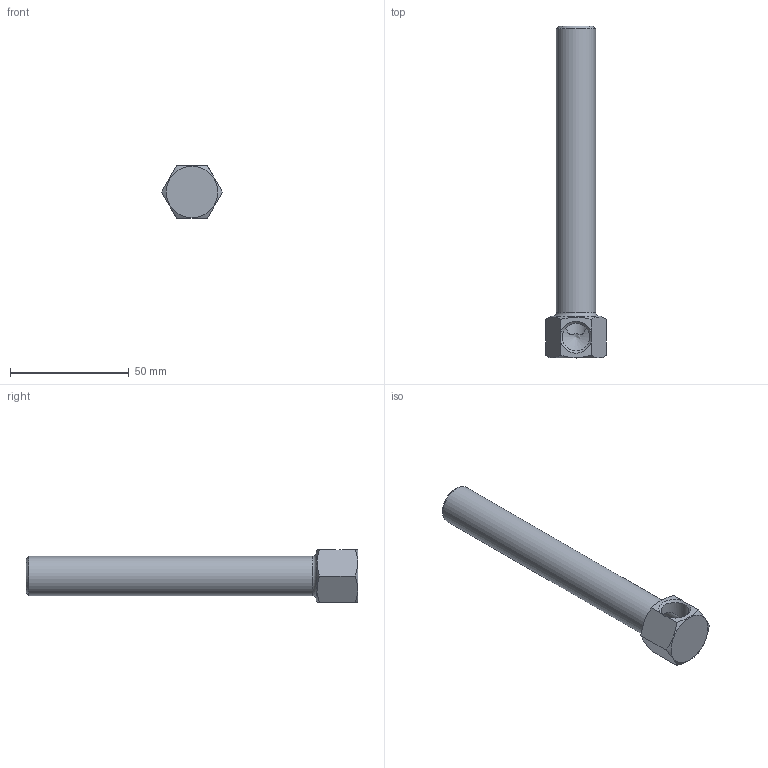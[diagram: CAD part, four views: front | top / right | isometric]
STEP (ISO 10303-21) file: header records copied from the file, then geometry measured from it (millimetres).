
FILE_DESCRIPTION(/* description */ (''),/* implementation_level */ '2;1');
FILE_NAME(/* name */ 'C:/Users/drich/Desktop/1438B-5-1_2 v1.step',/* time_stamp */ '2019-12-29T15:28:13-06:00',/* author */ (''),/* organization */ (''),/* preprocessor_version */ 'ST-DEVELOPER v18',/* originating_system */ 'Autodesk Translation Framework v8.12.0.6',/* authorisation */ '');
FILE_SCHEMA (('AUTOMOTIVE_DESIGN { 1 0 10303 214 3 1 1 }'));
Length unit declared in the file: inch
Products named in the file (1): 1438B-5-1_2
Bounding box: 25.66 x 139.7 x 22.23 mm (x, y, z)
Volume: 17943.7 mm3; surface area: 13472.3 mm2
Topology: 1 solids, 1 shells, 23 faces, 62 edges, 40 vertices
Faces by surface type: plane 10, cone 8, cylinder 4, torus 1
Full cylindrical faces by diameter (mm): 11.668 x1, 11.887 x1, 16.537 x1
Entity records: 821 total; most frequent: CARTESIAN_POINT 247, ORIENTED_EDGE 122, DIRECTION 104, EDGE_CURVE 61, AXIS2_PLACEMENT_3D 43, VERTEX_POINT 40, EDGE_LOOP 25, FACE_OUTER_BOUND 23
